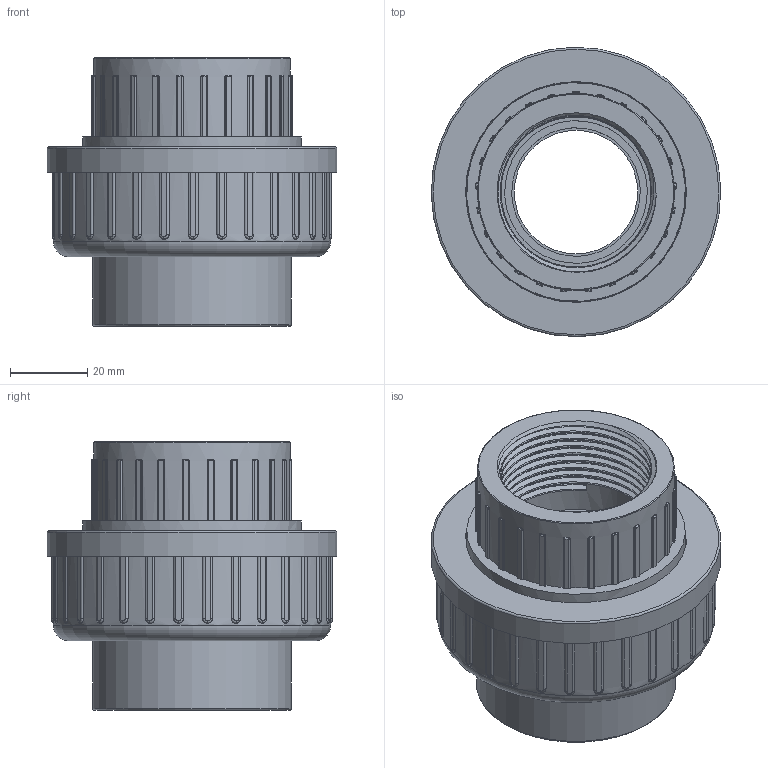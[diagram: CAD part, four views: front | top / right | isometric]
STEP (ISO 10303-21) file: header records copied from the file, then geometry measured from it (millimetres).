
FILE_DESCRIPTION(/* description */ (''),/* implementation_level */ '2;1');
FILE_NAME(/* name */ 'C:\Users\POLYPIPE\Desktop\DATASET INVENTOR\LIBRERIA EFFAST\3D_RACCORDI\RGR\3D_RGRBOG\3D_RGRBOG040E.stp',/* time_stamp */ '2018-01-22T14:33:46+01:00',/* author */ ('POLYPIPE'),/* organization */ (''),/* preprocessor_version */ 'ST-DEVELOPER v16.1',/* originating_system */ 'Autodesk Inventor 2016',/* authorisation */ '');
FILE_SCHEMA (('CONFIG_CONTROL_DESIGN'));
Length unit declared in the file: centimetre
Products named in the file (1): 3D_RGRBOG
Bounding box: 75 x 75 x 69.5 mm (x, y, z)
Volume: 119874.6 mm3; surface area: 37626.2 mm2
Topology: 1 solids, 1 shells, 474 faces, 1279 edges, 816 vertices
Faces by surface type: cylinder 204, plane 146, bspline 119, torus 4, cone 1
Full cylindrical faces by diameter (mm): 32 x1, 33.3 x1, 36.952 x1, 38.952 x1, 40 x1, 51 x1, 51.5 x1, 54.2 x1, 56.5 x1, 56.656 x2, 57.2 x6, 71.8 x1, 75 x1
Entity records: 22357 total; most frequent: CARTESIAN_POINT 10530, ORIENTED_EDGE 2482, DIRECTION 2268, EDGE_CURVE 1241, AXIS2_PLACEMENT_3D 866, VERTEX_POINT 801, LINE 536, VECTOR 536
